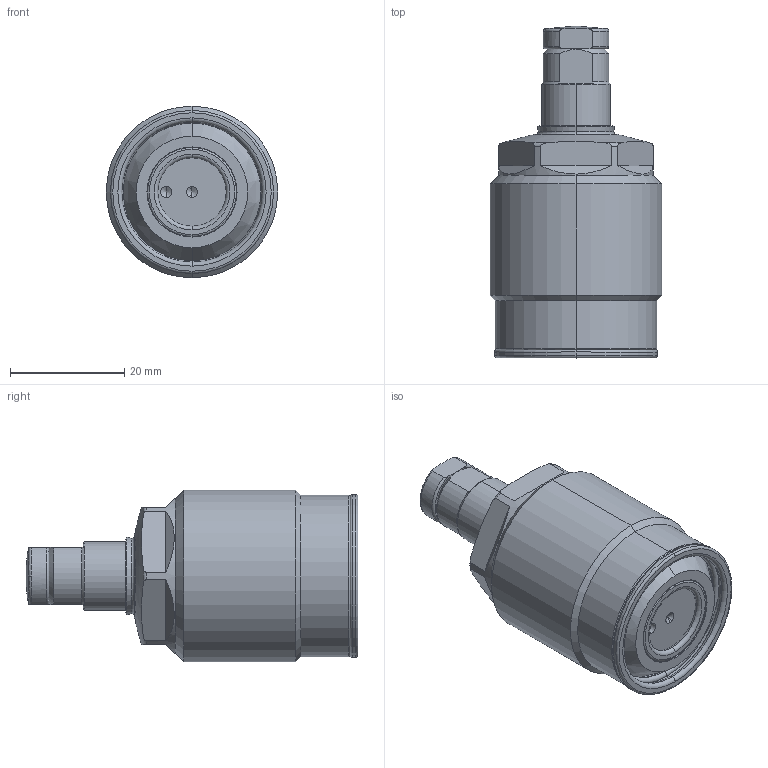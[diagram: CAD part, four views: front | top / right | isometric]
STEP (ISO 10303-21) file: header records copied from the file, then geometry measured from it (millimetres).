
FILE_DESCRIPTION(/* description */ (''),/* implementation_level */ '2;1');
FILE_NAME(/* name */ 'TSS30-S.stp',/* time_stamp */ '2024-11-02T13:27:48+08:00',/* author */ (''),/* organization */ (''),/* preprocessor_version */ 'ST-DEVELOPER v16.7',/* originating_system */ 'SIEMENS PLM Software NX 12.0',/* authorisation */ '');
FILE_SCHEMA (('AP203_CONFIGURATION_CONTROLLED_3D_DESIGN_OF_MECHANICAL_PARTS_AND_ASSEMBLIES_MIM_LF { 1 0 10303 403 2 1 2}'));
Length unit declared in the file: millimetre
Products named in the file (7): XLD-M8_contactbolt5030; XLD-M8_Oring4933; TSS30-S-04; TSS30-S-02; TSS30-S-01; TSS30-S-03; LD0303-x-ES_step
Assembly tree (6 placements, depth 3):
  LD0303-x-ES_step
    TSS30-S-01
    TSS30-S-02
    TSS30-S-03
      XLD-M8_Oring4933
      XLD-M8_contactbolt5030
    TSS30-S-04
Bounding box: 30 x 58 x 30 mm (x, y, z)
Volume: 25536.2 mm3; surface area: 7786.7 mm2
Topology: 5 solids, 5 shells, 170 faces, 376 edges, 224 vertices
Faces by surface type: torus 60, cylinder 41, plane 37, cone 30, sphere 2
Entity records: 5779 total; most frequent: CARTESIAN_POINT 1157, DIRECTION 913, ORIENTED_EDGE 744, AXIS2_PLACEMENT_3D 408, EDGE_CURVE 372, CIRCLE 231, VERTEX_POINT 224, EDGE_LOOP 186
